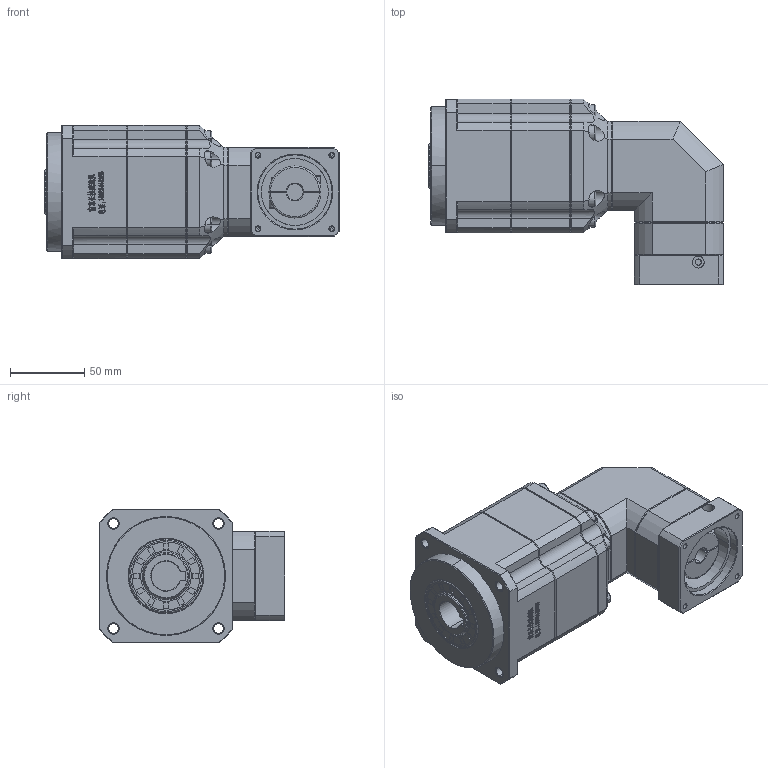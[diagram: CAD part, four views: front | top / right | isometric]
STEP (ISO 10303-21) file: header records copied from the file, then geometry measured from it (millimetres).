
FILE_DESCRIPTION (( 'STEP AP214' ), '1' );
FILE_NAME ('ZPBR090-K20-L3-P1-11-50-70-M4.step', '2024-06-07T18:42:00', ( 'Windows 蚚誧' ), ( 'Organization' ), 'SwSTEP 2.0', 'SolidWorks 2016', '' );
FILE_SCHEMA (( 'AUTOMOTIVE_DESIGN' ));
Length unit declared in the file: millimetre
Products named in the file (1): ZPBR090-K20-L3-P1-11-50-70-M4
Bounding box: 198.5 x 125 x 90 mm (x, y, z)
Surface area: 98931.5 mm2 (no closed solid volume)
Topology: 0 solids, 30 shells, 2045 faces, 5342 edges, 3381 vertices
Faces by surface type: plane 1115, bspline 366, cone 273, cylinder 266, torus 25
Entity records: 95196 total; most frequent: CARTESIAN_POINT 46076, ORIENTED_EDGE 10648, DIRECTION 7249, EDGE_CURVE 5342, VERTEX_POINT 3381, VECTOR 2545, LINE 2545, AXIS2_PLACEMENT_3D 2352
